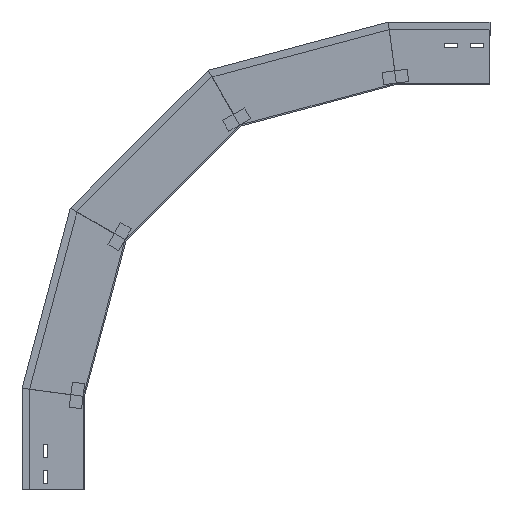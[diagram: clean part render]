
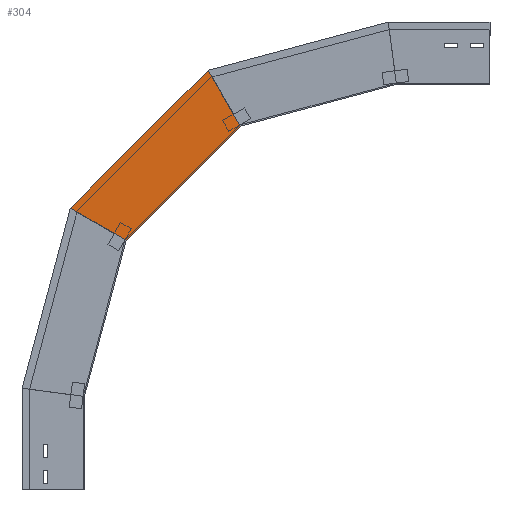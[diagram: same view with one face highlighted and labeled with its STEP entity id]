
A CAD part, left-side view. The second image highlights one B-rep face of the part: STEP entity #304.
In plain terms, the highlighted planar face has unit normal (-1, 0, 0) as drawn and (1, 0, 0) by its records, which use the part's own axes.
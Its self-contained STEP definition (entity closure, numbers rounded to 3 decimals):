
#76 = EDGE_CURVE ( 'NONE', #1845, #806, #1101, .T. ) ;
#88 = LINE ( 'NONE', #217, #1495 ) ;
#116 = VECTOR ( 'NONE', #790, 1000. ) ;
#158 = LINE ( 'NONE', #754, #557 ) ;
#217 = CARTESIAN_POINT ( 'NONE',  ( 0., -46.122, 379.263 ) ) ;
#224 = CARTESIAN_POINT ( 'NONE',  ( 0., 22.623, 451.939 ) ) ;
#226 = DIRECTION ( 'NONE',  ( 0., 0., -1. ) ) ;
#300 = VECTOR ( 'NONE', #802, 1000. ) ;
#304 = ADVANCED_FACE ( 'NONE', ( #375 ), #673, .T. ) ;
#327 = EDGE_CURVE ( 'NONE', #1111, #552, #1222, .T. ) ;
#375 = FACE_OUTER_BOUND ( 'NONE', #577, .T. ) ;
#552 = VERTEX_POINT ( 'NONE', #1622 ) ;
#557 = VECTOR ( 'NONE', #1330, 1000. ) ;
#577 = EDGE_LOOP ( 'NONE', ( #879, #1486, #1444, #1491 ) ) ;
#637 = DIRECTION ( 'NONE',  ( 1., 0., 0. ) ) ;
#650 = EDGE_CURVE ( 'NONE', #1845, #1111, #158, .T. ) ;
#673 = PLANE ( 'NONE',  #1553 ) ;
#754 = CARTESIAN_POINT ( 'NONE',  ( 0., 24.589, 449.973 ) ) ;
#790 = DIRECTION ( 'NONE',  ( 0., -0.5, -0.866 ) ) ;
#802 = DIRECTION ( 'NONE',  ( 0., -0.866, -0.5 ) ) ;
#806 = VERTEX_POINT ( 'NONE', #1874 ) ;
#816 = CARTESIAN_POINT ( 'NONE',  ( 0., -46.122, 379.263 ) ) ;
#879 = ORIENTED_EDGE ( 'NONE', *, *, #650, .T. ) ;
#1067 = EDGE_CURVE ( 'NONE', #806, #552, #88, .T. ) ;
#1101 = LINE ( 'NONE', #1677, #300 ) ;
#1111 = VERTEX_POINT ( 'NONE', #1818 ) ;
#1222 = LINE ( 'NONE', #1821, #116 ) ;
#1330 = DIRECTION ( 'NONE',  ( 0., -0.707, 0.707 ) ) ;
#1444 = ORIENTED_EDGE ( 'NONE', *, *, #1067, .F. ) ;
#1486 = ORIENTED_EDGE ( 'NONE', *, *, #327, .T. ) ;
#1491 = ORIENTED_EDGE ( 'NONE', *, *, #76, .F. ) ;
#1495 = VECTOR ( 'NONE', #1515, 1000. ) ;
#1515 = DIRECTION ( 'NONE',  ( 0., -0.707, 0.707 ) ) ;
#1553 = AXIS2_PLACEMENT_3D ( 'NONE', #816, #637, #226 ) ;
#1622 = CARTESIAN_POINT ( 'NONE',  ( 0., -250.175, 583.315 ) ) ;
#1677 = CARTESIAN_POINT ( 'NONE',  ( 0., -128.356, 364.771 ) ) ;
#1818 = CARTESIAN_POINT ( 'NONE',  ( 0., -198.411, 672.973 ) ) ;
#1821 = CARTESIAN_POINT ( 'NONE',  ( 0., -287.519, 518.633 ) ) ;
#1845 = VERTEX_POINT ( 'NONE', #224 ) ;
#1874 = CARTESIAN_POINT ( 'NONE',  ( 0., -67.034, 400.175 ) ) ;
